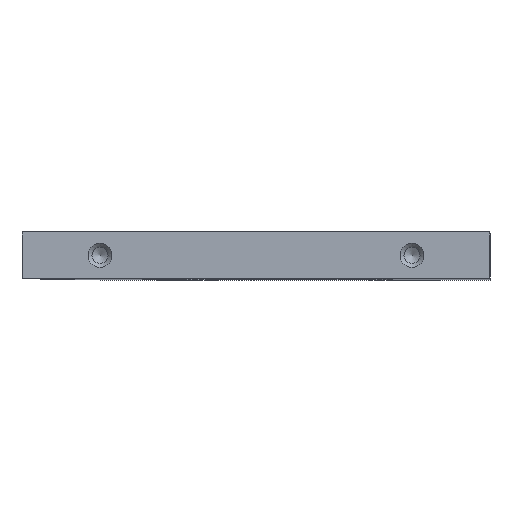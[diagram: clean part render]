
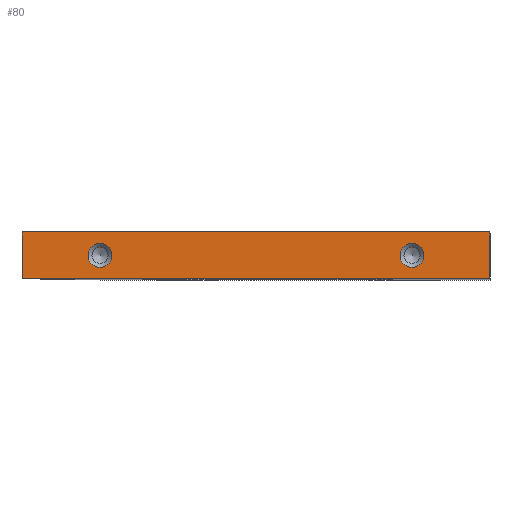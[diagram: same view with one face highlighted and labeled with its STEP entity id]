
A CAD part, top view. The second image highlights one B-rep face of the part: STEP entity #80.
In plain terms, the highlighted planar face has unit normal (0, 0, 1).
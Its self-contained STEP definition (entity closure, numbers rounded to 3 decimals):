
#80=ADVANCED_FACE('',(#755,#757,#759),#761,.T.);
#755=FACE_BOUND('',#756,.T.);
#756=EDGE_LOOP('',(#1395,#1396,#1397,#1398));
#757=FACE_BOUND('',#758,.T.);
#758=EDGE_LOOP('',(#1399));
#759=FACE_BOUND('',#760,.T.);
#760=EDGE_LOOP('',(#1400));
#761=PLANE('',#762);
#762=AXIS2_PLACEMENT_3D('',#763,#764,#765);
#763=CARTESIAN_POINT('',(-120.,0.,190.));
#764=DIRECTION('',(0.,0.,1.));
#765=DIRECTION('',(1.,0.,0.));
#1395=ORIENTED_EDGE('',*,*,#1639,.T.);
#1396=ORIENTED_EDGE('',*,*,#1673,.T.);
#1397=ORIENTED_EDGE('',*,*,#1674,.F.);
#1398=ORIENTED_EDGE('',*,*,#1632,.F.);
#1399=ORIENTED_EDGE('',*,*,#1675,.T.);
#1400=ORIENTED_EDGE('',*,*,#1676,.T.);
#1632=EDGE_CURVE('',#1772,#1774,#1775,.T.);
#1639=EDGE_CURVE('',#1772,#1786,#1788,.T.);
#1673=EDGE_CURVE('',#1786,#1854,#1855,.T.);
#1674=EDGE_CURVE('',#1774,#1854,#1856,.T.);
#1675=EDGE_CURVE('',#1857,#1857,#1858,.F.);
#1676=EDGE_CURVE('',#1859,#1859,#1860,.F.);
#1772=VERTEX_POINT('',#2022);
#1774=VERTEX_POINT('',#2026);
#1775=LINE('',#2027,#2028);
#1786=VERTEX_POINT('',#2052);
#1788=LINE('',#2056,#2057);
#1854=VERTEX_POINT('',#2210);
#1855=LINE('',#2211,#2212);
#1856=LINE('',#2214,#2215);
#1857=VERTEX_POINT('',#2217);
#1858=CIRCLE('',#2218,3.067);
#1859=VERTEX_POINT('',#2222);
#1860=CIRCLE('',#2223,3.067);
#2022=CARTESIAN_POINT('',(-120.,0.,190.));
#2026=CARTESIAN_POINT('',(-120.,12.,190.));
#2027=CARTESIAN_POINT('',(-120.,0.,190.));
#2028=VECTOR('',#2029,1.);
#2029=DIRECTION('',(0.,1.,0.));
#2052=CARTESIAN_POINT('',(0.,0.,190.));
#2056=CARTESIAN_POINT('',(-120.,0.,190.));
#2057=VECTOR('',#2058,1.);
#2058=DIRECTION('',(1.,0.,0.));
#2210=CARTESIAN_POINT('',(0.,12.,190.));
#2211=CARTESIAN_POINT('',(0.,0.,190.));
#2212=VECTOR('',#2213,1.);
#2213=DIRECTION('',(0.,1.,0.));
#2214=CARTESIAN_POINT('',(-120.,12.,190.));
#2215=VECTOR('',#2216,1.);
#2216=DIRECTION('',(1.,0.,0.));
#2217=CARTESIAN_POINT('',(-100.,2.933,190.));
#2218=AXIS2_PLACEMENT_3D('',#2219,#2220,#2221);
#2219=CARTESIAN_POINT('',(-100.,6.,190.));
#2220=DIRECTION('',(0.,0.,1.));
#2221=DIRECTION('',(0.,-1.,0.));
#2222=CARTESIAN_POINT('',(-20.,2.933,190.));
#2223=AXIS2_PLACEMENT_3D('',#2224,#2225,#2226);
#2224=CARTESIAN_POINT('',(-20.,6.,190.));
#2225=DIRECTION('',(0.,0.,1.));
#2226=DIRECTION('',(0.,-1.,0.));
